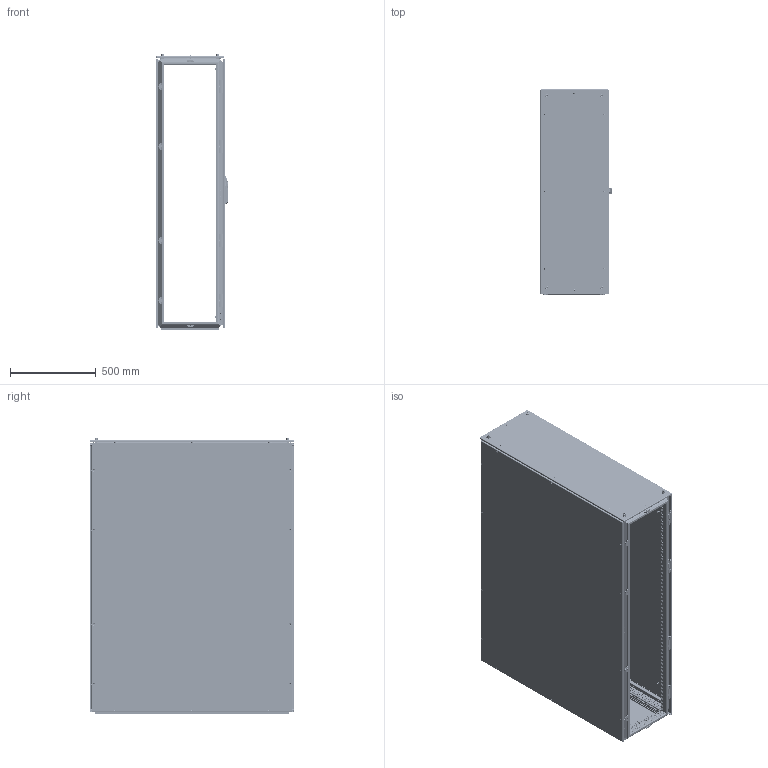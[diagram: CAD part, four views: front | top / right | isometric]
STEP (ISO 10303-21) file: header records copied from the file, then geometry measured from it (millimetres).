
FILE_DESCRIPTION(('STEP AP203'), '1');
FILE_NAME('ØÍÑ ÊÑ PRO II Êîðïóñ ÑÁ', '', ('UNSPECIFIED'), ('UNSPECIFIED'), 'C3D Converter', 'C3D Toolkit', '');
FILE_SCHEMA(('CONFIG_CONTROL_DESIGN'));
Length unit declared in the file: millimetre
Products named in the file (55): 3210.160.120.40; 3000; 3007.175; 3007.75; 3006; 3009.04; 3009.04.01; 3009.04.2; 3009.04.01.2; 3301; 3310; 3311; 3302; 3211; 3409; 3415; 3425; 3426; 3422.01; 3412; 3411; 2952; 3009.05; 3009.05.01; 3622.01; 3417; 3427; 3010
Assembly tree (379 placements, depth 6):
  3210.160.120.40
    3000
      3000
      (unnamed)  x88
      3007.175  x2
      (unnamed)  x14
      3007.75  x2
      3006
      3009.04  x8
        3009.04.01
        (unnamed)
        (unnamed)
      3009.04.2  x13
        3009.04.01.2
        (unnamed)
        (unnamed)
    3301
      3310
        3311
        (unnamed)
      (unnamed)  x8
      (unnamed)  x8
      (unnamed)  x4
      (unnamed)  x4
    3302
      3211
      (unnamed)  x2
      (unnamed)  x14
    3409
      3415
        3425
          3426
          3422.01  x4
          (unnamed)  x14
          (unnamed)  x8
          (unnamed)  x2
        3412  x2
        3411  x2
        (unnamed)  x4
        (unnamed)  x14
        (unnamed)  x22
        (unnamed)  x8
        2952
          (unnamed)
            (unnamed)
            (unnamed)
            (unnamed)
            (unnamed)
            (unnamed)
        (unnamed)  x2
        3009.05  x4
          3009.05.01
          (unnamed)
          (unnamed)
        3622.01  x4
        (unnamed)  x4
      3417
        3427
          3426
          3422.01  x4
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Bounding box: 423.93 x 1197 x 1616 mm (x, y, z)
Volume: 12624905.7 mm3; surface area: 16031776.1 mm2
Topology: 478 solids, 478 shells, 25680 faces, 69956 edges, 45842 vertices
Faces by surface type: plane 16788, cylinder 6191, cone 1493, bspline 643, torus 438, extrusion 90, sphere 37
Full cylindrical faces by diameter (mm): 0.5 x36, 2.6 x8, 3.71 x8, 4.134 x130, 4.3 x2, 4.5 x2126, 4.8 x16, 4.917 x36, 5 x182, 5.2 x1, 5.5 x8, 5.8 x42, 6 x81, 6.1 x8, 6.4 x8, 6.6 x36, 6.75 x36, 6.8 x184, 7 x96, 7.3 x36, 7.5 x86, 8 x128, 8.3 x16, 8.5 x9, 9.2 x74, 10 x47, 10.106 x8, 10.5 x10, 11.5 x14, 12 x48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
Entity records: 648751 total; most frequent: CARTESIAN_POINT 259757, ORIENTED_EDGE 73874, DIRECTION 68869, EDGE_CURVE 36937, VECTOR 28181, LINE 28136, VERTEX_POINT 25769, EDGE_LOOP 24086
